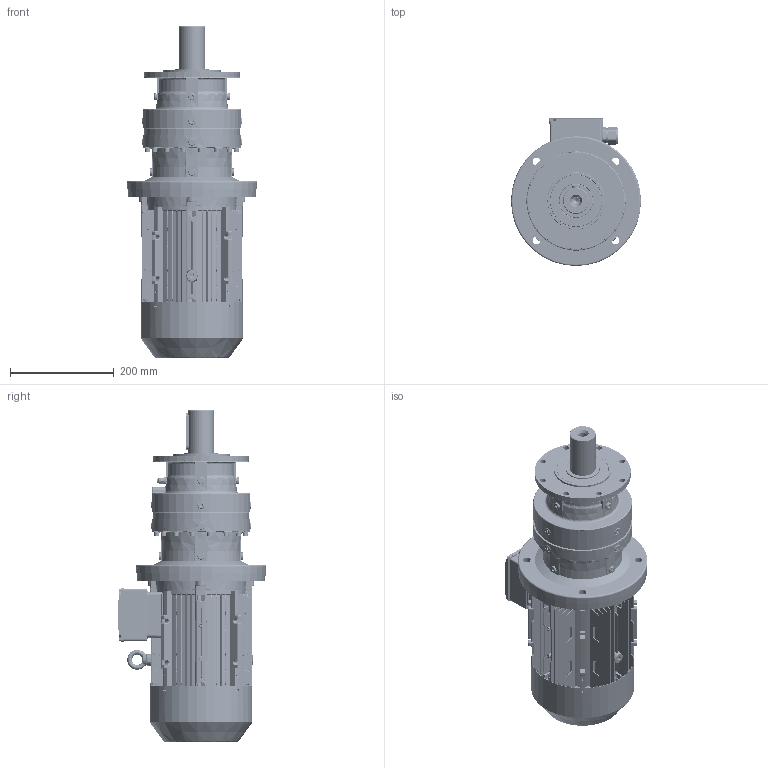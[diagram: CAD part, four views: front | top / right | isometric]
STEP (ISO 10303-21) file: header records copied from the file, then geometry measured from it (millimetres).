
FILE_DESCRIPTION (( 'STEP AP203' ), '1' );
FILE_NAME ('PVL-1101L-MX100L-4.STEP', '2019-05-17T08:08:01', ( '' ), ( '' ), 'SwSTEP 2.0', 'SolidWorks 2012', '' );
FILE_SCHEMA (( 'CONFIG_CONTROL_DESIGN' ));
Products named in the file (18): PVL-1101L-MX100L-4; IE3 100 B5 flange; MX3-100L_B5; plain parallel keys_GB_CONNECTING_PIECE_KEYS_CSK 8X50; IE3 100 shaft cover; IE3 100 terminal box cover; IE3 100 fan cover; IE3 100 terminal box base; IE3 100 fan; IE3 100 B3 Shield; IE3 100 Shaft; eyebolts gb_GB_FASTENER_SCREWS_FRS M8-N; IE3 100 casing; ML7A; FL1A; PNL_1101L_0_0_A10_B5_ML7A_FL1A_0_0_0_0_0_0_0_0_0_0_0_M1; 11100B5; P11
Assembly tree (18 placements, depth 3):
  PVL-1101L-MX100L-4
    PNL_1101L_0_0_A10_B5_ML7A_FL1A_0_0_0_0_0_0_0_0_0_0_0_M1
      P11
      11100B5
      ML7A
      FL1A
    MX3-100L_B5
      IE3 100 casing
      IE3 100 B3 Shield
      IE3 100 Shaft
      eyebolts gb_GB_FASTENER_SCREWS_FRS M8-N
      IE3 100 terminal box base
      IE3 100 terminal box cover
      IE3 100 fan
      IE3 100 fan cover
      plain parallel keys_GB_CONNECTING_PIECE_KEYS_CSK 8X50
      IE3 100 shaft cover  x2
      IE3 100 B5 flange
Bounding box: 250 x 285 x 638.51 mm (x, y, z)
Volume: 7003419.1 mm3; surface area: 1522604 mm2
Topology: 21 solids, 23 shells, 6158 faces, 15648 edges, 9522 vertices
Faces by surface type: plane 1988, bspline 1630, cylinder 1560, cone 496, torus 392, sphere 92
Entity records: 249149 total; most frequent: CARTESIAN_POINT 113029, ORIENTED_EDGE 30590, DIRECTION 24563, EDGE_CURVE 15295, VERTEX_POINT 9414, AXIS2_PLACEMENT_3D 9171, EDGE_LOOP 6657, VECTOR 6221
